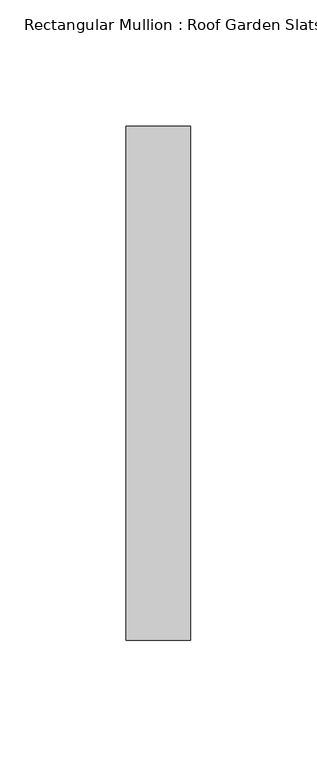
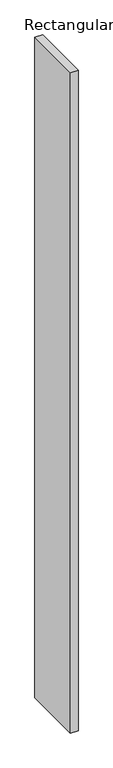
"""IFC4 building model written with IfcOpenShell, lengths in millimetres: member geometry, Rectangular Mullion : Roof Garden Slats."""

import ifcopenshell
import ifcopenshell.guid

model = None  # the IFC model being written
_history = None  # IfcOwnerHistory: only IFC2X3 demands one
_inside = {}  # id of a spatial element -> (the spatial element, [elements in it])
_under = {}  # id of a project, library or spatial element -> (it, [spatial elements below it])
_declared = {}  # id of a project -> (the project, [libraries it declares])
_typed = {}  # id of a type object -> (the type object, [elements of that type])
_made_of = {}  # id of a material, layer set ... -> (it, [elements and type objects made of it])


def new_model(schema):
    """Start an empty IFC model of exactly this schema.

    Asked for "IFC4X3", IfcOpenShell would pick the latest addendum, in which some entities
    have other attributes; the version numbers below select the first issue.
    IFC2X3 requires an IfcOwnerHistory on every rooted entity: one is made here for all.
    """
    global model, _history
    if schema == "IFC4X3":
        model = ifcopenshell.file(schema_version=(4, 3, 0, 0))
    else:
        model = ifcopenshell.file(schema=schema)
    _inside.clear()
    _under.clear()
    _declared.clear()
    _typed.clear()
    _made_of.clear()
    _history = None
    if model.schema == "IFC2X3":
        org = make("IfcOrganization", Name="unknown")
        user = make(
            "IfcPersonAndOrganization",
            ThePerson=make("IfcPerson", FamilyName="unknown"),
            TheOrganization=org,
        )
        app = make(
            "IfcApplication",
            ApplicationDeveloper=org,
            Version="unknown",
            ApplicationFullName="unknown",
            ApplicationIdentifier="unknown",
        )
        _history = make(
            "IfcOwnerHistory",
            OwningUser=user,
            OwningApplication=app,
            ChangeAction="ADDED",
            CreationDate=0,
        )
    return model


def make(cls, **values):
    """One entity of the class cls with the attributes given. An attribute that is None is left unset."""
    return model.create_entity(
        cls, **{name: value for name, value in values.items() if value is not None}
    )


def rooted(cls, **values):
    """An entity with a GlobalId (a new one), such as an element, a storey or a relation."""
    return make(cls, GlobalId=ifcopenshell.guid.new(), OwnerHistory=_history, **values)


def si_unit(unit_type, name, prefix=None):
    """IfcSIUnit, for example si_unit("LENGTHUNIT", "METRE", prefix="MILLI")."""
    return make("IfcSIUnit", UnitType=unit_type, Prefix=prefix, Name=name)


def assignment(units):
    """IfcUnitAssignment: the units of a project."""
    return None if units is None else make("IfcUnitAssignment", Units=units)


def point(xyz):
    """IfcCartesianPoint."""
    return None if xyz is None else make("IfcCartesianPoint", Coordinates=xyz)


def direction(xyz):
    """IfcDirection."""
    return None if xyz is None else make("IfcDirection", DirectionRatios=xyz)


def frame(location, z_axis=None, x_axis=None):
    """IfcAxis2Placement3D, a coordinate frame: its origin and axes. An axis left out is left unset."""
    return make(
        "IfcAxis2Placement3D",
        Location=point(location),
        Axis=direction(z_axis),
        RefDirection=direction(x_axis),
    )


def origin():
    """The frame at (0, 0, 0) with its axes left unset."""
    return frame((0.0, 0.0, 0.0))


def place(relative_to, where):
    """IfcLocalPlacement: puts the frame where relative to a parent placement (None: the world)."""
    return make(
        "IfcLocalPlacement", PlacementRelTo=relative_to, RelativePlacement=where
    )


def context(
    kind, dimensions, precision=None, world=None, true_north=None, identifier=None
):
    """IfcGeometricRepresentationContext, for example the 3D "Model" context."""
    return make(
        "IfcGeometricRepresentationContext",
        ContextIdentifier=identifier,
        ContextType=kind,
        CoordinateSpaceDimension=dimensions,
        Precision=precision,
        WorldCoordinateSystem=world,
        TrueNorth=true_north,
    )


def project(units=None, contexts=None):
    """IfcProject with its units and contexts."""
    return rooted(
        "IfcProject",
        Name="project",
        RepresentationContexts=contexts,
        UnitsInContext=assignment(units),
    )


def spatial(cls, under=None, at=None, **own):
    """A site, building, storey or space (cls), placed at a placement, below another one or the project."""
    s = rooted(cls, ObjectPlacement=at, **own)
    if under is not None:
        _under.setdefault(under.id(), (under, []))[1].append(s)
    return s


def polyline(points):
    """IfcPolyline through the points."""
    return make("IfcPolyline", Points=[point(p) for p in points])


def outline(outer, holes=None, kind="AREA"):
    """IfcArbitraryClosedProfileDef: a profile drawn as a closed curve; with holes, ...WithVoids."""
    if holes is None:
        return make("IfcArbitraryClosedProfileDef", ProfileType=kind, OuterCurve=outer)
    return make(
        "IfcArbitraryProfileDefWithVoids",
        ProfileType=kind,
        OuterCurve=outer,
        InnerCurves=holes,
    )


def extrude(swept, where, along, depth):
    """IfcExtrudedAreaSolid: the profile swept, set in the frame where, extruded along a direction by depth."""
    return make(
        "IfcExtrudedAreaSolid",
        SweptArea=swept,
        Position=where,
        ExtrudedDirection=direction(along),
        Depth=depth,
    )


def shape(context_of_items, identifier, shape_type, items):
    """IfcShapeRepresentation: the items that make up one representation, for example the "Body"."""
    return make(
        "IfcShapeRepresentation",
        ContextOfItems=context_of_items,
        RepresentationIdentifier=identifier,
        RepresentationType=shape_type,
        Items=items,
    )


def source(mapping_origin, context_of_items, identifier, shape_type, items):
    """IfcRepresentationMap: a shape defined once, which mapped items show again and again."""
    return make(
        "IfcRepresentationMap",
        MappingOrigin=mapping_origin,
        MappedRepresentation=shape(context_of_items, identifier, shape_type, items),
    )


def transform(
    local_origin,
    x_axis=None,
    y_axis=None,
    z_axis=None,
    scale=None,
    scale2=None,
    scale3=None,
    uniform=True,
):
    """IfcCartesianTransformationOperator3D, or its non-uniform kind. x_axis, y_axis, z_axis: its Axis1, 2, 3."""
    if uniform:
        return make(
            "IfcCartesianTransformationOperator3D",
            Axis1=direction(x_axis),
            Axis2=direction(y_axis),
            LocalOrigin=point(local_origin),
            Scale=scale,
            Axis3=direction(z_axis),
        )
    return make(
        "IfcCartesianTransformationOperator3DnonUniform",
        Axis1=direction(x_axis),
        Axis2=direction(y_axis),
        LocalOrigin=point(local_origin),
        Scale=scale,
        Axis3=direction(z_axis),
        Scale2=scale2,
        Scale3=scale3,
    )


def mapped(mapping_source, mapping_target):
    """IfcMappedItem: shows the shape of a source again, moved by a transform."""
    return make(
        "IfcMappedItem", MappingSource=mapping_source, MappingTarget=mapping_target
    )


def made_of(thing, what):
    """Note that an element or type object is made of a material, layer set ...; save() writes the relation."""
    if what is not None:
        _made_of.setdefault(what.id(), (what, []))[1].append(thing)
    return thing


def element(
    cls,
    number,
    at=None,
    inside=None,
    cuts=None,
    type_object=None,
    material=None,
    context=None,
    identifier="Body",
    shape_type=None,
    held_by="IfcProductDefinitionShape",
    body=None,
    shapes=None,
    **own,
):
    """One element of the class cls, such as IfcWall. Its Tag is "e" and its number.

    at: its placement. inside: the storey or other place that contains it. cuts: it is an
    opening in that element (IfcRelVoidsElement). A single representation is given by context,
    identifier, shape_type and body (its items); several are given by shapes. held_by: the class
    of the entity that holds the representations. save() writes the other relations.
    """
    e = rooted(cls, Tag="e%d" % number, ObjectPlacement=at, **own)
    if body is not None:
        shapes = [shape(context, identifier, shape_type, body)]
    if shapes is not None:
        e.Representation = make(held_by, Representations=shapes)
    if inside is not None:
        _inside.setdefault(inside.id(), (inside, []))[1].append(e)
    if cuts is not None:
        rooted(
            "IfcRelVoidsElement", RelatingBuildingElement=cuts, RelatedOpeningElement=e
        )
    if type_object is not None:
        _typed.setdefault(type_object.id(), (type_object, []))[1].append(e)
    return made_of(e, material)


def aggregate(whole, parts):
    """IfcRelAggregates: a whole, such as a stair, and the parts it consists of."""
    return rooted("IfcRelAggregates", RelatingObject=whole, RelatedObjects=parts)


def save(model, path):
    """Write the relations noted so far, then the file.

    IfcRelAggregates (storeys below a building ...), IfcRelContainedInSpatialStructure (elements
    in a storey), IfcRelDefinesByType, IfcRelAssociatesMaterial and IfcRelDeclares: one each for
    every whole, place, type object, material and project.
    """
    for whole, parts in _under.values():
        aggregate(whole, parts)
    for where, things in _inside.values():
        rooted(
            "IfcRelContainedInSpatialStructure",
            RelatedElements=things,
            RelatingStructure=where,
        )
    for kind, things in _typed.values():
        rooted("IfcRelDefinesByType", RelatedObjects=things, RelatingType=kind)
    for what, things in _made_of.values():
        rooted("IfcRelAssociatesMaterial", RelatedObjects=things, RelatingMaterial=what)
    for by, libraries in _declared.values():
        rooted("IfcRelDeclares", RelatingContext=by, RelatedDefinitions=libraries)
    model.write(path)


def rectangular_mullion_roof_garden_slats_65a6e65c(model_context):
    return source(origin(), model_context, "Body", "SweptSolid", [
        extrude(outline(polyline([(0.0, 139.7), (0.0, -63.5), (-25.4, -63.5), (-25.4, 139.7), (0.0, 139.7)])), frame((0.0, 0.0, -2309.5332584), z_axis=(0.0, 0.0, 1.0), x_axis=(1.0, 0.0, 0.0)), (0.0, 0.0, 1.0), 2309.5332584),
    ])


if __name__ == "__main__":
    model = new_model("IFC4")
    model_context = context("Model", 3, world=origin())
    ifc_project = project(units=[si_unit("LENGTHUNIT", "METRE", prefix="MILLI")], contexts=[model_context])
    site = spatial("IfcSite", under=ifc_project)
    building = spatial("IfcBuilding", under=site)
    placement = place(None, origin())
    rectangular_mullion_roof_garden_slats_shape = rectangular_mullion_roof_garden_slats_65a6e65c(model_context)
    element("IfcMember", 1, ObjectType="Rectangular Mullion : Roof Garden Slats", at=placement, inside=building, context=model_context, shape_type="MappedRepresentation", body=[
        mapped(rectangular_mullion_roof_garden_slats_shape, transform((0.0, 0.0, 0.0), x_axis=(1.0, 0.0, 0.0), y_axis=(0.0, 1.0, 0.0), z_axis=(0.0, 0.0, 1.0))),
    ])
    save(model, "model.ifc")
